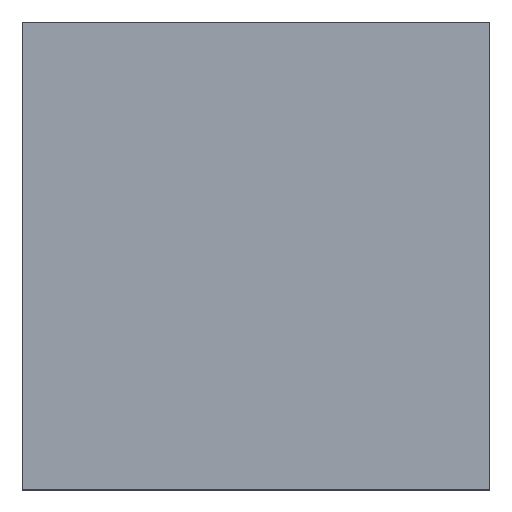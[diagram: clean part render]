
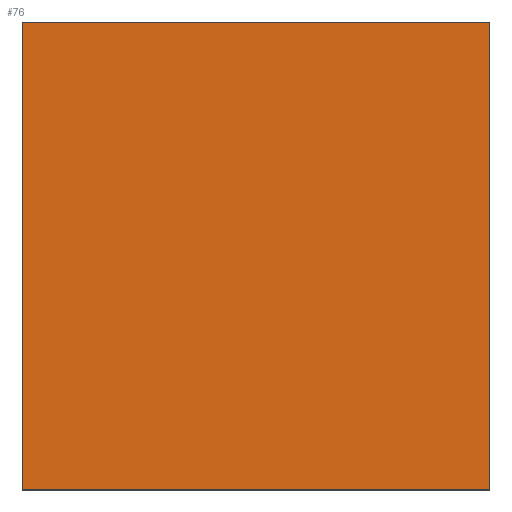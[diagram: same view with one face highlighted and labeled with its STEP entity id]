
A CAD part, top view. The second image highlights one B-rep face of the part: STEP entity #76.
In plain terms, the highlighted planar face has unit normal (0, 0, 1).
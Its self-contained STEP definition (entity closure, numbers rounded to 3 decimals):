
#76=ADVANCED_FACE($,(#116),#504,.T.);
#116=FACE_OUTER_BOUND($,#156,.T.);
#156=EDGE_LOOP($,(#220,#221,#222,#223));
#220=ORIENTED_EDGE($,*,*,#374,.F.);
#221=ORIENTED_EDGE($,*,*,#375,.F.);
#222=ORIENTED_EDGE($,*,*,#376,.F.);
#223=ORIENTED_EDGE($,*,*,#370,.F.);
#370=EDGE_CURVE($,#449,#455,#538,.T.);
#374=EDGE_CURVE($,#453,#449,#542,.T.);
#375=EDGE_CURVE($,#454,#453,#543,.T.);
#376=EDGE_CURVE($,#455,#454,#544,.T.);
#449=VERTEX_POINT($,#795);
#453=VERTEX_POINT($,#799);
#454=VERTEX_POINT($,#800);
#455=VERTEX_POINT($,#801);
#504=PLANE($,#672);
#538=B_SPLINE_CURVE_WITH_KNOTS($,1,(#768,#769),.UNSPECIFIED.,.F.,.F.,(2,
2),(0.,900.),.UNSPECIFIED.);
#542=B_SPLINE_CURVE_WITH_KNOTS($,1,(#776,#777),.UNSPECIFIED.,.F.,.F.,(2,
2),(2700.,3600.),.UNSPECIFIED.);
#543=B_SPLINE_CURVE_WITH_KNOTS($,1,(#778,#779),.UNSPECIFIED.,.F.,.F.,(2,
2),(1800.,2700.),.UNSPECIFIED.);
#544=B_SPLINE_CURVE_WITH_KNOTS($,1,(#780,#781),.UNSPECIFIED.,.F.,.F.,(2,
2),(900.,1800.),.UNSPECIFIED.);
#672=AXIS2_PLACEMENT_3D($,#790,#703,$);
#703=DIRECTION($,(0.,0.,1.));
#768=CARTESIAN_POINT($,(1841.288,1146.846,280.));
#769=CARTESIAN_POINT($,(1841.288,-53.154,280.));
#776=CARTESIAN_POINT($,(641.288,1146.846,280.));
#777=CARTESIAN_POINT($,(1841.288,1146.846,280.));
#778=CARTESIAN_POINT($,(641.288,-53.154,280.));
#779=CARTESIAN_POINT($,(641.288,1146.846,280.));
#780=CARTESIAN_POINT($,(1841.288,-53.154,280.));
#781=CARTESIAN_POINT($,(641.288,-53.154,280.));
#790=CARTESIAN_POINT($,(641.288,1146.846,280.));
#795=CARTESIAN_POINT($,(1841.288,1146.846,280.));
#799=CARTESIAN_POINT($,(641.288,1146.846,280.));
#800=CARTESIAN_POINT($,(641.288,-53.154,280.));
#801=CARTESIAN_POINT($,(1841.288,-53.154,280.));
